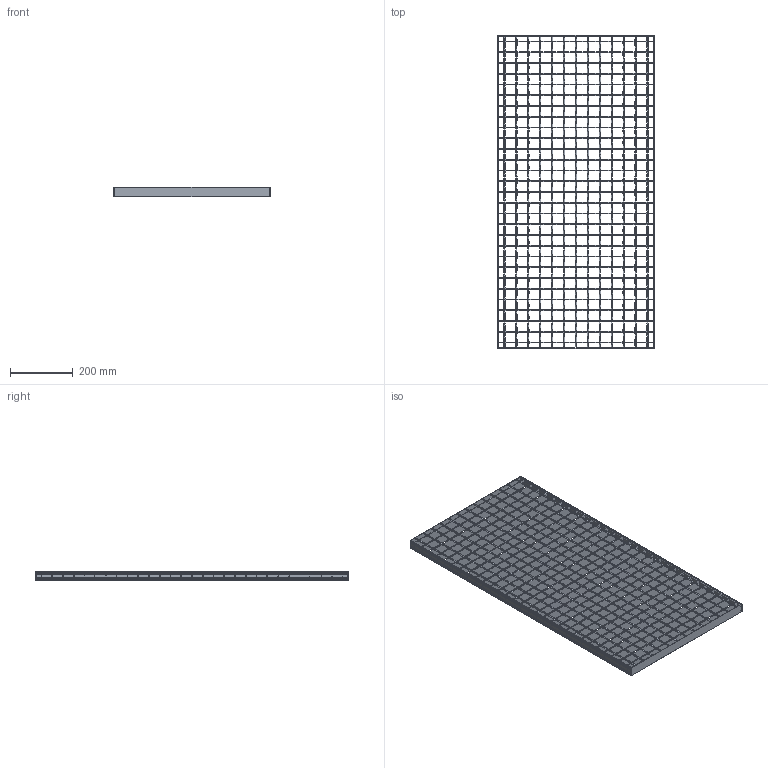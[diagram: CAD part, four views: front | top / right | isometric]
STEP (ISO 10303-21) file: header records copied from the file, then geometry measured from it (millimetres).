
FILE_DESCRIPTION(/* description */ ('STEP AP242','CAx-IF Rec.Pracs.---Representation and Presentation of Product Manufacturing Information (PMI)---4.0---2014-10-13','CAx-IF Rec.Pracs.---3D Tessellated Geometry---0.4---2014-09-14','2;1'),/* implementation_level */ '2;1');
FILE_NAME(/* name */ 'Lichtgitter_Forge_welded_gratings SP 230-34_38-2-1-1-500-1000_(350_1_0)',/* time_stamp */ '2026-04-23T13:08:54+02:00',/* author */ ('License CC BY-ND 4.0'),/* organization */ ('CADENAS'),/* preprocessor_version */ 'ST-DEVELOPER v20',/* originating_system */ 'PARTsolutions',/* authorisation */ ' ');
FILE_SCHEMA (('AP242_MANAGED_MODEL_BASED_3D_ENGINEERING_MIM_LF { 1 0 10303 442 1 1 4 }'));
Length unit declared in the file: millimetre
Products named in the file (5): Lichtgitter_Forge_welded_gratings SP 230-34/38-2-1-1-500-1000_(350_1_
0); Lichtgitter SP 230-34/38-2_(350_1_2_500_1000_Schweisspressroste)_VERT
ICAL_SIDES; Lichtgitter SP 230-34/38-2_(350_1_2_500_1000_Schweisspressroste)_HORI
ZONTAL_C; Lichtgitter SP 230-34/38-2_(350_1_2_500_1000_Schweisspressroste)_HORI
ZONTAL_SIDES; Lichtgitter SP 3.46530-34/38-3.465_(350_1_2_500_1000_Schweisspressros
te)_VERTICAL_C
Assembly tree (46 placements, depth 2):
  Lichtgitter_Forge_welded_gratings SP 230-34/38-2-1-1-500-1000_(350_1_
0)
    Lichtgitter SP 230-34/38-2_(350_1_2_500_1000_Schweisspressroste)_VERT
ICAL_SIDES  x2
    Lichtgitter SP 230-34/38-2_(350_1_2_500_1000_Schweisspressroste)_HORI
ZONTAL_C  x29
    Lichtgitter SP 230-34/38-2_(350_1_2_500_1000_Schweisspressroste)_HORI
ZONTAL_SIDES  x2
    Lichtgitter SP 3.46530-34/38-3.465_(350_1_2_500_1000_Schweisspressros
te)_VERTICAL_C  x13
Bounding box: 500 x 1000 x 30.72 mm (x, y, z)
Volume: 1187450.9 mm3; surface area: 1288977.5 mm2
Topology: 46 solids, 46 shells, 3602 faces, 7982 edges, 4472 vertices
Faces by surface type: bspline 2600, plane 609, cylinder 393
Entity records: 7871 total; most frequent: CARTESIAN_POINT 2575, ORIENTED_EDGE 1108, DIRECTION 802, EDGE_CURVE 554, LINE 508, VECTOR 508, VERTEX_POINT 304, EDGE_LOOP 258
